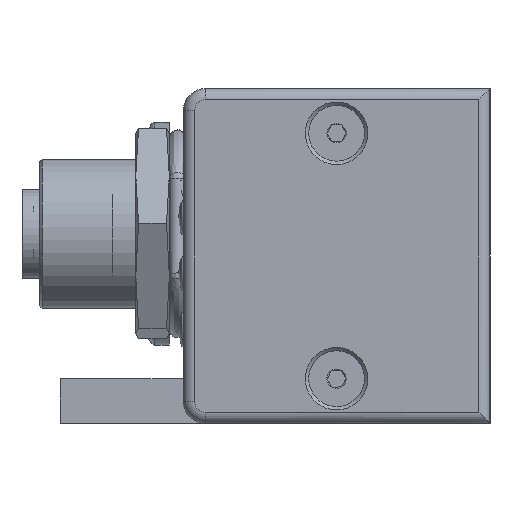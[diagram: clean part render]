
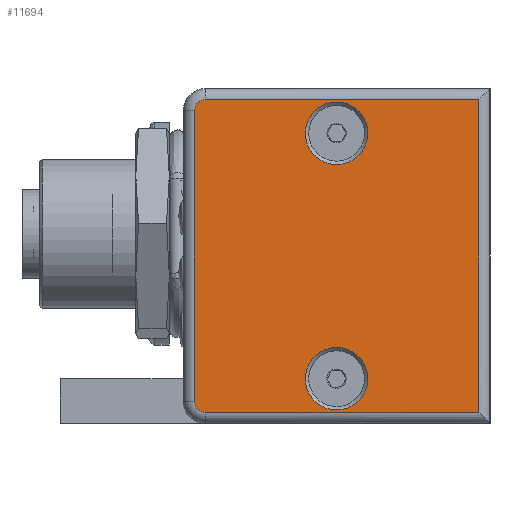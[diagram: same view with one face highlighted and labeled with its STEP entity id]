
A CAD part, left-side view. The second image highlights one B-rep face of the part: STEP entity #11694.
In plain terms, the highlighted planar face has unit normal (-1, 0, 0) as drawn and (0, 0, 1) by its records, which use the part's own axes.
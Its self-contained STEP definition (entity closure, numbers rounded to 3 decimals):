
#38 = ORIENTED_EDGE ( 'NONE', *, *, #2127, .T. ) ;
#233 = PLANE ( 'NONE',  #2931 ) ;
#414 = DIRECTION ( 'NONE',  ( 0., 0., 1. ) ) ;
#1046 = CIRCLE ( 'NONE', #1796, 1. ) ;
#1161 = LINE ( 'NONE', #9988, #9462 ) ;
#1481 = CARTESIAN_POINT ( 'NONE',  ( -8.2, 0., 3. ) ) ;
#1796 = AXIS2_PLACEMENT_3D ( 'NONE', #13148, #13058, #13106 ) ;
#2055 = CIRCLE ( 'NONE', #10148, 1. ) ;
#2101 = CARTESIAN_POINT ( 'NONE',  ( 14., 11.75, 3. ) ) ;
#2127 = EDGE_CURVE ( 'NONE', #5048, #8981, #12139, .T. ) ;
#2212 = DIRECTION ( 'NONE',  ( 1., 0., 0. ) ) ;
#2435 = CARTESIAN_POINT ( 'NONE',  ( 14., -12.75, 3. ) ) ;
#2513 = CARTESIAN_POINT ( 'NONE',  ( 13.8, 0., 3. ) ) ;
#2563 = DIRECTION ( 'NONE',  ( 0., -1., 0. ) ) ;
#2834 = VERTEX_POINT ( 'NONE', #2101 ) ;
#2931 = AXIS2_PLACEMENT_3D ( 'NONE', #7855, #414, #4648 ) ;
#3150 = FACE_BOUND ( 'NONE', #6559, .T. ) ;
#3154 = CARTESIAN_POINT ( 'NONE',  ( 14., 11.75, 3. ) ) ;
#3208 = CARTESIAN_POINT ( 'NONE',  ( -11., 0., 3. ) ) ;
#3233 = DIRECTION ( 'NONE',  ( 0., 0., 1. ) ) ;
#3282 = ORIENTED_EDGE ( 'NONE', *, *, #7799, .T. ) ;
#3720 = ORIENTED_EDGE ( 'NONE', *, *, #11518, .T. ) ;
#3905 = EDGE_CURVE ( 'NONE', #6668, #6668, #9590, .T. ) ;
#3932 = DIRECTION ( 'NONE',  ( 0., 0., -1. ) ) ;
#4298 = VECTOR ( 'NONE', #12848, 1000. ) ;
#4335 = VECTOR ( 'NONE', #12893, 1000. ) ;
#4505 = FACE_BOUND ( 'NONE', #13358, .T. ) ;
#4648 = DIRECTION ( 'NONE',  ( 1., 0., 0. ) ) ;
#4881 = DIRECTION ( 'NONE',  ( 1., 0., 0. ) ) ;
#5048 = VERTEX_POINT ( 'NONE', #6474 ) ;
#5126 = CARTESIAN_POINT ( 'NONE',  ( -14., -12.75, 3. ) ) ;
#5245 = CARTESIAN_POINT ( 'NONE',  ( -13., 12.75, 3. ) ) ;
#5359 = CARTESIAN_POINT ( 'NONE',  ( 13., 11.75, 3. ) ) ;
#5455 = DIRECTION ( 'NONE',  ( 1., 0., 0. ) ) ;
#5499 = LINE ( 'NONE', #9686, #8915 ) ;
#5551 = EDGE_CURVE ( 'NONE', #9616, #9376, #1161, .T. ) ;
#5677 = CARTESIAN_POINT ( 'NONE',  ( -14., 11.75, 3. ) ) ;
#5694 = EDGE_LOOP ( 'NONE', ( #12342, #9105, #3720, #3282, #38, #9624 ) ) ;
#6474 = CARTESIAN_POINT ( 'NONE',  ( 13., 12.75, 3. ) ) ;
#6559 = EDGE_LOOP ( 'NONE', ( #7421 ) ) ;
#6668 = VERTEX_POINT ( 'NONE', #1481 ) ;
#7421 = ORIENTED_EDGE ( 'NONE', *, *, #3905, .T. ) ;
#7593 = DIRECTION ( 'NONE',  ( 1., 0., 0. ) ) ;
#7799 = EDGE_CURVE ( 'NONE', #2834, #5048, #2055, .T. ) ;
#7855 = CARTESIAN_POINT ( 'NONE',  ( -13., 11.75, 3. ) ) ;
#8434 = FACE_OUTER_BOUND ( 'NONE', #5694, .T. ) ;
#8460 = EDGE_CURVE ( 'NONE', #8716, #8716, #11396, .T. ) ;
#8532 = CARTESIAN_POINT ( 'NONE',  ( -13., 12.75, 3. ) ) ;
#8594 = EDGE_CURVE ( 'NONE', #8981, #9616, #1046, .T. ) ;
#8716 = VERTEX_POINT ( 'NONE', #2513 ) ;
#8915 = VECTOR ( 'NONE', #7593, 1000. ) ;
#8981 = VERTEX_POINT ( 'NONE', #5245 ) ;
#9060 = AXIS2_PLACEMENT_3D ( 'NONE', #10306, #3932, #4881 ) ;
#9105 = ORIENTED_EDGE ( 'NONE', *, *, #12493, .T. ) ;
#9376 = VERTEX_POINT ( 'NONE', #5126 ) ;
#9462 = VECTOR ( 'NONE', #2563, 1000. ) ;
#9590 = CIRCLE ( 'NONE', #12789, 2.8 ) ;
#9616 = VERTEX_POINT ( 'NONE', #5677 ) ;
#9624 = ORIENTED_EDGE ( 'NONE', *, *, #8594, .T. ) ;
#9686 = CARTESIAN_POINT ( 'NONE',  ( 15., -12.75, 3. ) ) ;
#9988 = CARTESIAN_POINT ( 'NONE',  ( -14., -13.75, 3. ) ) ;
#10148 = AXIS2_PLACEMENT_3D ( 'NONE', #5359, #3233, #5455 ) ;
#10306 = CARTESIAN_POINT ( 'NONE',  ( 11., 0., 3. ) ) ;
#10955 = DIRECTION ( 'NONE',  ( 0., 0., -1. ) ) ;
#11396 = CIRCLE ( 'NONE', #9060, 2.8 ) ;
#11518 = EDGE_CURVE ( 'NONE', #11717, #2834, #12840, .T. ) ;
#11694 = ADVANCED_FACE ( 'NONE', ( #4505, #3150, #8434 ), #233, .T. ) ;
#11717 = VERTEX_POINT ( 'NONE', #2435 ) ;
#11944 = ORIENTED_EDGE ( 'NONE', *, *, #8460, .T. ) ;
#12139 = LINE ( 'NONE', #8532, #4298 ) ;
#12342 = ORIENTED_EDGE ( 'NONE', *, *, #5551, .T. ) ;
#12493 = EDGE_CURVE ( 'NONE', #9376, #11717, #5499, .T. ) ;
#12789 = AXIS2_PLACEMENT_3D ( 'NONE', #3208, #10955, #2212 ) ;
#12840 = LINE ( 'NONE', #3154, #4335 ) ;
#12848 = DIRECTION ( 'NONE',  ( -1., 0., 0. ) ) ;
#12893 = DIRECTION ( 'NONE',  ( 0., 1., 0. ) ) ;
#13058 = DIRECTION ( 'NONE',  ( 0., 0., 1. ) ) ;
#13106 = DIRECTION ( 'NONE',  ( 1., 0., 0. ) ) ;
#13148 = CARTESIAN_POINT ( 'NONE',  ( -13., 11.75, 3. ) ) ;
#13358 = EDGE_LOOP ( 'NONE', ( #11944 ) ) ;
